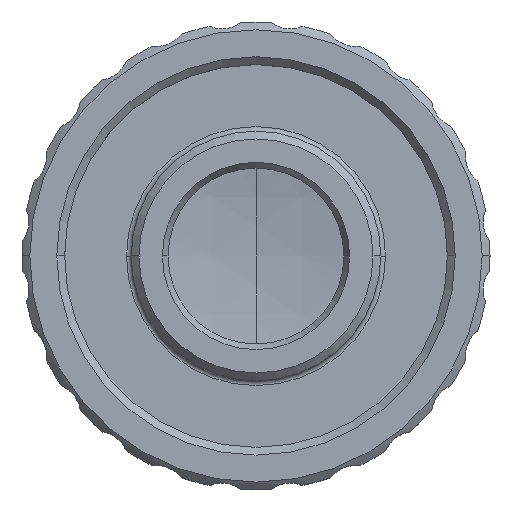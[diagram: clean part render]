
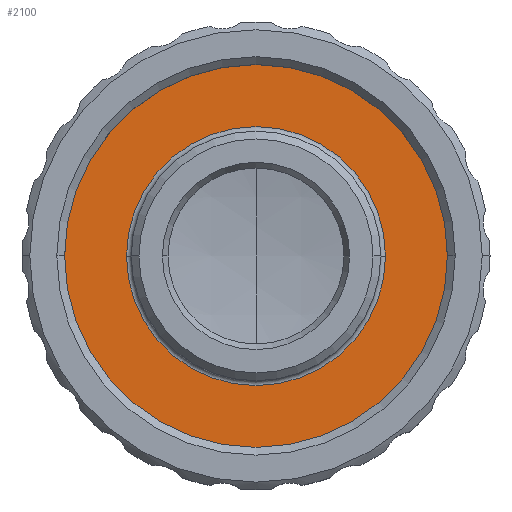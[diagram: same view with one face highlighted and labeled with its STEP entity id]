
A CAD part, top view. The second image highlights one B-rep face of the part: STEP entity #2100.
In plain terms, the highlighted planar face has unit normal (0, 0, 1).
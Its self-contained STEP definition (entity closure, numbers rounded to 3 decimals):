
#288 = ORIENTED_EDGE ( 'NONE', *, *, #2526, .T. ) ;
#469 = DIRECTION ( 'NONE',  ( 0., 0., -1. ) ) ;
#893 = DIRECTION ( 'NONE',  ( 1., 0., 0. ) ) ;
#953 = AXIS2_PLACEMENT_3D ( 'NONE', #2158, #2704, #2099 ) ;
#967 = VERTEX_POINT ( 'NONE', #3291 ) ;
#974 = EDGE_LOOP ( 'NONE', ( #3427, #2722 ) ) ;
#1105 = AXIS2_PLACEMENT_3D ( 'NONE', #4172, #1568, #893 ) ;
#1203 = ORIENTED_EDGE ( 'NONE', *, *, #3462, .T. ) ;
#1252 = FACE_BOUND ( 'NONE', #1847, .T. ) ;
#1296 = DIRECTION ( 'NONE',  ( -1., 0., 0. ) ) ;
#1308 = CIRCLE ( 'NONE', #1105, 12.7 ) ;
#1490 = DIRECTION ( 'NONE',  ( -1., 0., 0. ) ) ;
#1568 = DIRECTION ( 'NONE',  ( 0., 0., 1. ) ) ;
#1661 = CARTESIAN_POINT ( 'NONE',  ( -12.7, 0., -3.574 ) ) ;
#1743 = CARTESIAN_POINT ( 'NONE',  ( 12.7, 0., -3.574 ) ) ;
#1839 = VERTEX_POINT ( 'NONE', #1661 ) ;
#1847 = EDGE_LOOP ( 'NONE', ( #288, #1203 ) ) ;
#1872 = CARTESIAN_POINT ( 'NONE',  ( 0., 0., -3.574 ) ) ;
#2099 = DIRECTION ( 'NONE',  ( 1., 0., 0. ) ) ;
#2100 = ADVANCED_FACE ( 'NONE', ( #1252, #2347 ), #3929, .F. ) ;
#2158 = CARTESIAN_POINT ( 'NONE',  ( 0., 0., -3.574 ) ) ;
#2240 = EDGE_CURVE ( 'NONE', #1839, #3177, #3921, .T. ) ;
#2247 = VERTEX_POINT ( 'NONE', #2430 ) ;
#2347 = FACE_OUTER_BOUND ( 'NONE', #974, .T. ) ;
#2368 = DIRECTION ( 'NONE',  ( 0., 0., -1. ) ) ;
#2383 = CARTESIAN_POINT ( 'NONE',  ( 0., 0., -3.574 ) ) ;
#2430 = CARTESIAN_POINT ( 'NONE',  ( -8.3, 0., -3.574 ) ) ;
#2519 = AXIS2_PLACEMENT_3D ( 'NONE', #1872, #3169, #3832 ) ;
#2526 = EDGE_CURVE ( 'NONE', #2247, #967, #3727, .T. ) ;
#2632 = EDGE_CURVE ( 'NONE', #3177, #1839, #1308, .T. ) ;
#2704 = DIRECTION ( 'NONE',  ( 0., 0., 1. ) ) ;
#2722 = ORIENTED_EDGE ( 'NONE', *, *, #2240, .T. ) ;
#3006 = CARTESIAN_POINT ( 'NONE',  ( 0., 8., -3.574 ) ) ;
#3169 = DIRECTION ( 'NONE',  ( 0., 0., -1. ) ) ;
#3177 = VERTEX_POINT ( 'NONE', #1743 ) ;
#3291 = CARTESIAN_POINT ( 'NONE',  ( 8.3, 0., -3.574 ) ) ;
#3427 = ORIENTED_EDGE ( 'NONE', *, *, #2632, .T. ) ;
#3462 = EDGE_CURVE ( 'NONE', #967, #2247, #4255, .T. ) ;
#3579 = AXIS2_PLACEMENT_3D ( 'NONE', #2383, #469, #1490 ) ;
#3727 = CIRCLE ( 'NONE', #3579, 8.3 ) ;
#3832 = DIRECTION ( 'NONE',  ( -1., 0., 0. ) ) ;
#3917 = AXIS2_PLACEMENT_3D ( 'NONE', #3006, #2368, #1296 ) ;
#3921 = CIRCLE ( 'NONE', #953, 12.7 ) ;
#3929 = PLANE ( 'NONE',  #3917 ) ;
#4172 = CARTESIAN_POINT ( 'NONE',  ( 0., 0., -3.574 ) ) ;
#4255 = CIRCLE ( 'NONE', #2519, 8.3 ) ;
